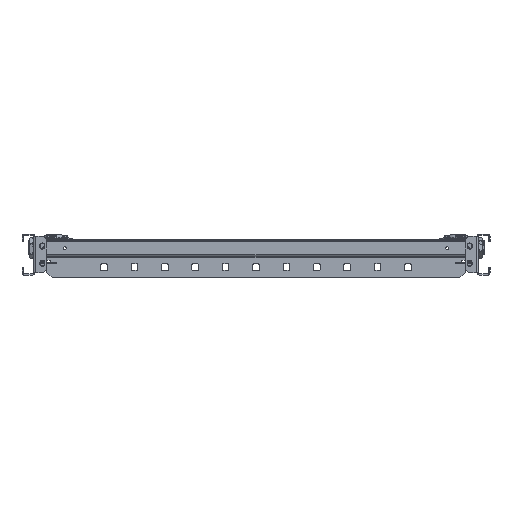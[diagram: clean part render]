
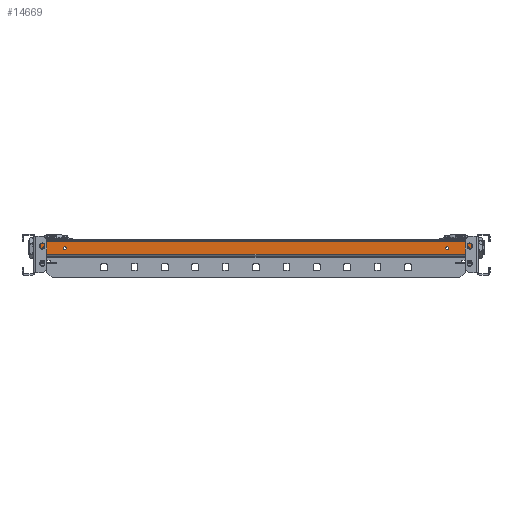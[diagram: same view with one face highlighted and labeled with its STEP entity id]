
A CAD part, left-side view. The second image highlights one B-rep face of the part: STEP entity #14669.
In plain terms, the highlighted planar face has unit normal (-1, 0, 0).
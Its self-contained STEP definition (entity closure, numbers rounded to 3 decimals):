
#24 = VERTEX_POINT ( 'NONE', #10448 ) ;
#214 = ORIENTED_EDGE ( 'NONE', *, *, #13764, .F. ) ;
#318 = CIRCLE ( 'NONE', #15724, 2.1 ) ;
#1188 = DIRECTION ( 'NONE',  ( -1., 0., 0. ) ) ;
#1217 = VERTEX_POINT ( 'NONE', #5250 ) ;
#1279 = VERTEX_POINT ( 'NONE', #17896 ) ;
#2077 = ORIENTED_EDGE ( 'NONE', *, *, #19526, .T. ) ;
#2089 = EDGE_LOOP ( 'NONE', ( #3659, #214 ) ) ;
#2750 = LINE ( 'NONE', #18586, #18098 ) ;
#2780 = CARTESIAN_POINT ( 'NONE',  ( 0., 21.5, 314.45 ) ) ;
#2849 = DIRECTION ( 'NONE',  ( 0., 0., 1. ) ) ;
#3312 = DIRECTION ( 'NONE',  ( -1., 0., 0. ) ) ;
#3537 = DIRECTION ( 'NONE',  ( 0., 0., -1. ) ) ;
#3659 = ORIENTED_EDGE ( 'NONE', *, *, #20949, .F. ) ;
#4100 = VECTOR ( 'NONE', #5418, 1000. ) ;
#4117 = LINE ( 'NONE', #29007, #26525 ) ;
#4276 = VERTEX_POINT ( 'NONE', #15880 ) ;
#4808 = ORIENTED_EDGE ( 'NONE', *, *, #28470, .F. ) ;
#4933 = CIRCLE ( 'NONE', #26744, 2.1 ) ;
#5250 = CARTESIAN_POINT ( 'NONE',  ( 0., 12.5, 307.35 ) ) ;
#5418 = DIRECTION ( 'NONE',  ( 0., 0., -1. ) ) ;
#5854 = DIRECTION ( 'NONE',  ( 0., 0., -1. ) ) ;
#5894 = CIRCLE ( 'NONE', #28328, 2.1 ) ;
#5943 = LINE ( 'NONE', #24218, #23416 ) ;
#6073 = EDGE_CURVE ( 'NONE', #25079, #1279, #31346, .T. ) ;
#6471 = VERTEX_POINT ( 'NONE', #8831 ) ;
#6819 = EDGE_LOOP ( 'NONE', ( #2077, #34419, #12785, #4808, #36692, #37529 ) ) ;
#8507 = CIRCLE ( 'NONE', #37996, 2.1 ) ;
#8831 = CARTESIAN_POINT ( 'NONE',  ( 0., 3.5, -312.95 ) ) ;
#9061 = DIRECTION ( 'NONE',  ( -1., 0., 0. ) ) ;
#9231 = FACE_BOUND ( 'NONE', #9745, .T. ) ;
#9267 = DIRECTION ( 'NONE',  ( -1., 0., 0. ) ) ;
#9745 = EDGE_LOOP ( 'NONE', ( #30701, #13656 ) ) ;
#10448 = CARTESIAN_POINT ( 'NONE',  ( 0., 3.5, 312.95 ) ) ;
#10577 = AXIS2_PLACEMENT_3D ( 'NONE', #39184, #15266, #29951 ) ;
#11789 = CIRCLE ( 'NONE', #18210, 2.1 ) ;
#12125 = EDGE_CURVE ( 'NONE', #22824, #4276, #20647, .T. ) ;
#12168 = DIRECTION ( 'NONE',  ( 0., -1., 0. ) ) ;
#12785 = ORIENTED_EDGE ( 'NONE', *, *, #21569, .F. ) ;
#13656 = ORIENTED_EDGE ( 'NONE', *, *, #25712, .F. ) ;
#13764 = EDGE_CURVE ( 'NONE', #14310, #27695, #11789, .T. ) ;
#14053 = DIRECTION ( 'NONE',  ( -1., 0., 0. ) ) ;
#14310 = VERTEX_POINT ( 'NONE', #30762 ) ;
#14379 = EDGE_LOOP ( 'NONE', ( #18525, #31104 ) ) ;
#14477 = FACE_OUTER_BOUND ( 'NONE', #6819, .T. ) ;
#14506 = CARTESIAN_POINT ( 'NONE',  ( 0., 12.5, 279.45 ) ) ;
#14669 = ADVANCED_FACE ( 'NONE', ( #9231, #36368, #33535, #39377, #14477 ), #23728, .F. ) ;
#15266 = DIRECTION ( 'NONE',  ( 1., 0., 0. ) ) ;
#15535 = DIRECTION ( 'NONE',  ( 0., 0., -1. ) ) ;
#15584 = CIRCLE ( 'NONE', #28423, 2.1 ) ;
#15724 = AXIS2_PLACEMENT_3D ( 'NONE', #24637, #39723, #3537 ) ;
#15876 = CARTESIAN_POINT ( 'NONE',  ( 0., 3.5, 314.45 ) ) ;
#15880 = CARTESIAN_POINT ( 'NONE',  ( 0., 21.5, -314.45 ) ) ;
#16470 = DIRECTION ( 'NONE',  ( 0., 0., -1. ) ) ;
#17321 = CARTESIAN_POINT ( 'NONE',  ( 0., 21.5, 314.45 ) ) ;
#17896 = CARTESIAN_POINT ( 'NONE',  ( 0., 12.5, 277.35 ) ) ;
#17946 = DIRECTION ( 'NONE',  ( 0., 0., 1. ) ) ;
#18098 = VECTOR ( 'NONE', #12168, 1000. ) ;
#18210 = AXIS2_PLACEMENT_3D ( 'NONE', #29744, #20678, #5854 ) ;
#18385 = DIRECTION ( 'NONE',  ( 0., 0., 1. ) ) ;
#18525 = ORIENTED_EDGE ( 'NONE', *, *, #6073, .F. ) ;
#18586 = CARTESIAN_POINT ( 'NONE',  ( 0., 0., 314.45 ) ) ;
#19162 = EDGE_CURVE ( 'NONE', #6471, #35166, #5943, .T. ) ;
#19171 = CARTESIAN_POINT ( 'NONE',  ( 0., 0., -314.45 ) ) ;
#19526 = EDGE_CURVE ( 'NONE', #4276, #35166, #34045, .T. ) ;
#19577 = CARTESIAN_POINT ( 'NONE',  ( 0., 12.5, 311.55 ) ) ;
#20647 = LINE ( 'NONE', #2780, #4100 ) ;
#20678 = DIRECTION ( 'NONE',  ( -1., 0., 0. ) ) ;
#20722 = VERTEX_POINT ( 'NONE', #23867 ) ;
#20747 = DIRECTION ( 'NONE',  ( -1., 0., 0. ) ) ;
#20860 = EDGE_CURVE ( 'NONE', #24690, #22615, #318, .T. ) ;
#20949 = EDGE_CURVE ( 'NONE', #27695, #14310, #22870, .T. ) ;
#21569 = EDGE_CURVE ( 'NONE', #24, #6471, #27922, .T. ) ;
#21981 = CARTESIAN_POINT ( 'NONE',  ( 0., 12.5, 309.45 ) ) ;
#22378 = CARTESIAN_POINT ( 'NONE',  ( 0., 12.5, -277.35 ) ) ;
#22615 = VERTEX_POINT ( 'NONE', #39442 ) ;
#22824 = VERTEX_POINT ( 'NONE', #17321 ) ;
#22870 = CIRCLE ( 'NONE', #33061, 2.1 ) ;
#22987 = DIRECTION ( 'NONE',  ( 0., 0., -1. ) ) ;
#23260 = DIRECTION ( 'NONE',  ( 0., 0., -1. ) ) ;
#23416 = VECTOR ( 'NONE', #15535, 1000. ) ;
#23445 = VECTOR ( 'NONE', #37049, 1000. ) ;
#23728 = PLANE ( 'NONE',  #10577 ) ;
#23867 = CARTESIAN_POINT ( 'NONE',  ( 0., 3.5, 314.45 ) ) ;
#24218 = CARTESIAN_POINT ( 'NONE',  ( 0., 3.5, -314.45 ) ) ;
#24637 = CARTESIAN_POINT ( 'NONE',  ( 0., 12.5, -279.45 ) ) ;
#24690 = VERTEX_POINT ( 'NONE', #22378 ) ;
#24957 = EDGE_CURVE ( 'NONE', #1217, #37719, #5894, .T. ) ;
#25079 = VERTEX_POINT ( 'NONE', #34395 ) ;
#25712 = EDGE_CURVE ( 'NONE', #22615, #24690, #8507, .T. ) ;
#26482 = CARTESIAN_POINT ( 'NONE',  ( 0., 12.5, -309.45 ) ) ;
#26525 = VECTOR ( 'NONE', #22987, 1000. ) ;
#26744 = AXIS2_PLACEMENT_3D ( 'NONE', #29119, #14053, #34956 ) ;
#27121 = EDGE_CURVE ( 'NONE', #22824, #20722, #2750, .T. ) ;
#27489 = AXIS2_PLACEMENT_3D ( 'NONE', #14506, #9061, #2849 ) ;
#27695 = VERTEX_POINT ( 'NONE', #36519 ) ;
#27922 = LINE ( 'NONE', #15876, #38236 ) ;
#28328 = AXIS2_PLACEMENT_3D ( 'NONE', #30196, #20747, #17946 ) ;
#28423 = AXIS2_PLACEMENT_3D ( 'NONE', #21981, #3312, #18385 ) ;
#28470 = EDGE_CURVE ( 'NONE', #20722, #24, #4117, .T. ) ;
#29007 = CARTESIAN_POINT ( 'NONE',  ( 0., 3.5, 314.45 ) ) ;
#29119 = CARTESIAN_POINT ( 'NONE',  ( 0., 12.5, 279.45 ) ) ;
#29744 = CARTESIAN_POINT ( 'NONE',  ( 0., 12.5, -309.45 ) ) ;
#29951 = DIRECTION ( 'NONE',  ( 0., 0., -1. ) ) ;
#30196 = CARTESIAN_POINT ( 'NONE',  ( 0., 12.5, 309.45 ) ) ;
#30369 = DIRECTION ( 'NONE',  ( 0., 0., -1. ) ) ;
#30701 = ORIENTED_EDGE ( 'NONE', *, *, #20860, .F. ) ;
#30762 = CARTESIAN_POINT ( 'NONE',  ( 0., 12.5, -311.55 ) ) ;
#31104 = ORIENTED_EDGE ( 'NONE', *, *, #34582, .F. ) ;
#31346 = CIRCLE ( 'NONE', #27489, 2.1 ) ;
#32922 = CARTESIAN_POINT ( 'NONE',  ( 0., 3.5, -314.45 ) ) ;
#33061 = AXIS2_PLACEMENT_3D ( 'NONE', #26482, #1188, #23260 ) ;
#33535 = FACE_BOUND ( 'NONE', #2089, .T. ) ;
#33576 = ORIENTED_EDGE ( 'NONE', *, *, #38868, .F. ) ;
#34045 = LINE ( 'NONE', #19171, #23445 ) ;
#34395 = CARTESIAN_POINT ( 'NONE',  ( 0., 12.5, 281.55 ) ) ;
#34419 = ORIENTED_EDGE ( 'NONE', *, *, #19162, .F. ) ;
#34582 = EDGE_CURVE ( 'NONE', #1279, #25079, #4933, .T. ) ;
#34956 = DIRECTION ( 'NONE',  ( 0., 0., 1. ) ) ;
#35166 = VERTEX_POINT ( 'NONE', #32922 ) ;
#36368 = FACE_BOUND ( 'NONE', #14379, .T. ) ;
#36519 = CARTESIAN_POINT ( 'NONE',  ( 0., 12.5, -307.35 ) ) ;
#36692 = ORIENTED_EDGE ( 'NONE', *, *, #27121, .F. ) ;
#36941 = EDGE_LOOP ( 'NONE', ( #33576, #39525 ) ) ;
#37049 = DIRECTION ( 'NONE',  ( 0., -1., 0. ) ) ;
#37529 = ORIENTED_EDGE ( 'NONE', *, *, #12125, .T. ) ;
#37719 = VERTEX_POINT ( 'NONE', #19577 ) ;
#37996 = AXIS2_PLACEMENT_3D ( 'NONE', #39419, #9267, #30369 ) ;
#38236 = VECTOR ( 'NONE', #16470, 1000. ) ;
#38868 = EDGE_CURVE ( 'NONE', #37719, #1217, #15584, .T. ) ;
#39184 = CARTESIAN_POINT ( 'NONE',  ( 0., 0., 314.45 ) ) ;
#39377 = FACE_BOUND ( 'NONE', #36941, .T. ) ;
#39419 = CARTESIAN_POINT ( 'NONE',  ( 0., 12.5, -279.45 ) ) ;
#39442 = CARTESIAN_POINT ( 'NONE',  ( 0., 12.5, -281.55 ) ) ;
#39525 = ORIENTED_EDGE ( 'NONE', *, *, #24957, .F. ) ;
#39723 = DIRECTION ( 'NONE',  ( -1., 0., 0. ) ) ;
